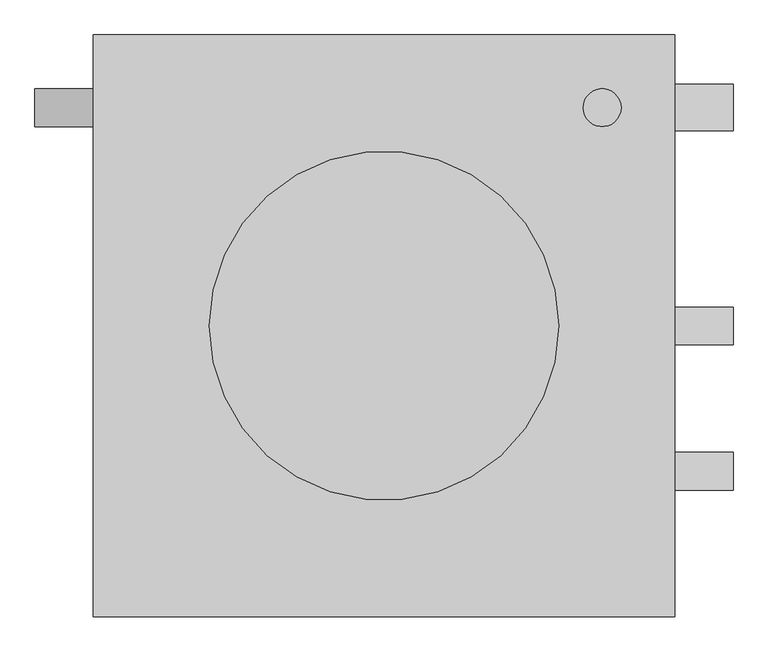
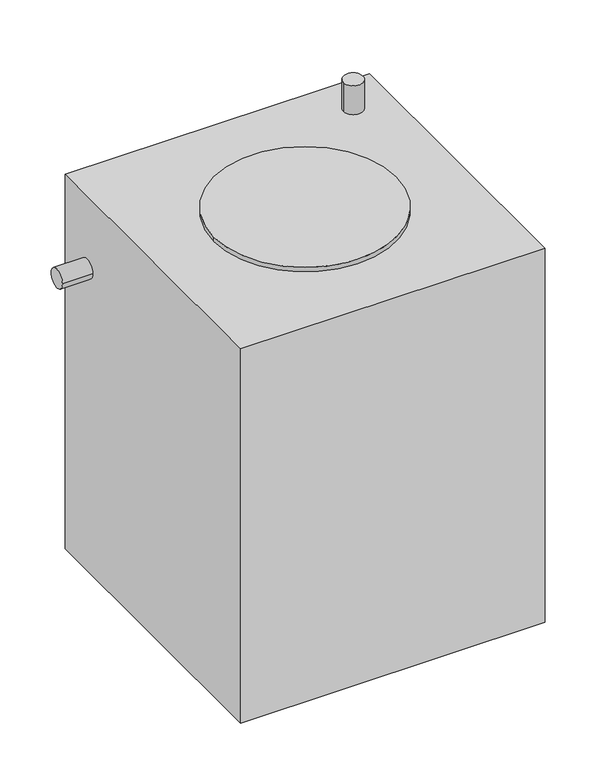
"""IFC4 building model written with IfcOpenShell, lengths in millimetres: sanitary terminal geometry, 04060_TF_消火用充水タンク : 消火用充水タンク."""

from ifc_helpers import new_model, si_unit, point, frame, frame_2d, origin, origin_2d, place, context, project, spatial, polyline, circle_curve, trimmed, segment, composite_curve, outline, extrude, source, transform, mapped, element, save


def sanitary_terminal_76d9e88b(model_context):
    return source(origin(), model_context, "Body", "SweptSolid", [
        extrude(outline(composite_curve([segment(trimmed(circle_curve(frame_2d((0.0, 850.0)), 32.5), [point((-32.5, 850.0))], [point((32.5, 850.0))], False, "CARTESIAN"), True, "CONTINUOUS"), segment(trimmed(circle_curve(frame_2d((0.0, 850.0)), 32.5), [point((32.5, 850.0))], [point((-32.5, 850.0))], False, "CARTESIAN"), True, "CONTINUOUS")], self_intersect=False)), frame((500.0, 0.0, 0.0), z_axis=(1.0, 0.0, 0.0), x_axis=(0.0, 1.0, 0.0)), (0.0, 0.0, 1.0), 100.0),
        extrude(outline(composite_curve([segment(trimmed(circle_curve(frame_2d((375.0, 1650.0)), 40.0), [point((335.0, 1650.0))], [point((415.0, 1650.0))], False, "CARTESIAN"), True, "CONTINUOUS"), segment(trimmed(circle_curve(frame_2d((375.0, 1650.0)), 40.0), [point((415.0, 1650.0))], [point((335.0, 1650.0))], False, "CARTESIAN"), True, "CONTINUOUS")], self_intersect=False)), frame((500.0, 0.0, 0.0), z_axis=(1.0, 0.0, 0.0), x_axis=(0.0, 1.0, 0.0)), (0.0, 0.0, 1.0), 100.0),
        extrude(outline(composite_curve([segment(trimmed(circle_curve(frame_2d((-250.0, 850.0)), 32.5), [point((-282.5, 850.0))], [point((-217.5, 850.0))], False, "CARTESIAN"), True, "CONTINUOUS"), segment(trimmed(circle_curve(frame_2d((-250.0, 850.0)), 32.5), [point((-217.5, 850.0))], [point((-282.5, 850.0))], False, "CARTESIAN"), True, "CONTINUOUS")], self_intersect=False)), frame((500.0, 0.0, 0.0), z_axis=(1.0, 0.0, 0.0), x_axis=(0.0, 1.0, 0.0)), (0.0, 0.0, 1.0), 100.0),
        extrude(outline(composite_curve([segment(trimmed(circle_curve(frame_2d((375.0, 1650.0)), 32.5), [point((407.5, 1650.0))], [point((342.5, 1650.0))], False, "CARTESIAN"), True, "CONTINUOUS"), segment(trimmed(circle_curve(frame_2d((375.0, 1650.0)), 32.5), [point((342.5, 1650.0))], [point((407.5, 1650.0))], False, "CARTESIAN"), True, "CONTINUOUS")], self_intersect=False)), frame((-600.0, 0.0, 0.0), z_axis=(1.0, 0.0, 0.0), x_axis=(0.0, 1.0, 0.0)), (0.0, 0.0, 1.0), 100.0),
        extrude(outline(composite_curve([segment(trimmed(circle_curve(frame_2d((375.0, 375.0)), 32.5), [point((342.5, 375.0))], [point((407.5, 375.0))], False, "CARTESIAN"), True, "CONTINUOUS"), segment(trimmed(circle_curve(frame_2d((375.0, 375.0)), 32.5), [point((407.5, 375.0))], [point((342.5, 375.0))], False, "CARTESIAN"), True, "CONTINUOUS")], self_intersect=False)), frame((0.0, 0.0, 1900.0), z_axis=(0.0, 0.0, 1.0), x_axis=(1.0, 0.0, 0.0)), (0.0, 0.0, 1.0), 100.0),
        extrude(outline(composite_curve([segment(trimmed(circle_curve(origin_2d(), 300.0), [point((-300.0, 0.0))], [point((300.0, 0.0))], False, "CARTESIAN"), True, "CONTINUOUS"), segment(trimmed(circle_curve(origin_2d(), 300.0), [point((300.0, 0.0))], [point((-300.0, 0.0))], False, "CARTESIAN"), True, "CONTINUOUS")], self_intersect=False)), frame((0.0, 0.0, 1900.0), z_axis=(0.0, 0.0, 1.0), x_axis=(1.0, 0.0, 0.0)), (0.0, 0.0, 1.0), 15.0),
        extrude(outline(polyline([(500.0, -500.0), (-500.0, -500.0), (-500.0, 500.0), (500.0, 500.0), (500.0, -500.0)])), frame((0.0, 0.0, 600.0), z_axis=(0.0, 0.0, 1.0), x_axis=(1.0, 0.0, 0.0)), (0.0, 0.0, 1.0), 1300.0),
    ])


if __name__ == "__main__":
    model = new_model("IFC4")
    model_context = context("Model", 3, world=origin())
    ifc_project = project(units=[si_unit("LENGTHUNIT", "METRE", prefix="MILLI")], contexts=[model_context])
    site = spatial("IfcSite", under=ifc_project)
    building = spatial("IfcBuilding", under=site)
    placement = place(None, origin())
    sanitary_terminal_shape = sanitary_terminal_76d9e88b(model_context)
    element("IfcSanitaryTerminal", 1, ObjectType="04060_TF_消火用充水タンク : 消火用充水タンク", at=placement, inside=building, context=model_context, shape_type="MappedRepresentation", body=[
        mapped(sanitary_terminal_shape, transform((0.0, 0.0, 0.0), x_axis=(1.0, 0.0, 0.0), y_axis=(0.0, 1.0, 0.0), z_axis=(0.0, 0.0, 1.0))),
    ])
    save(model, "model.ifc")
